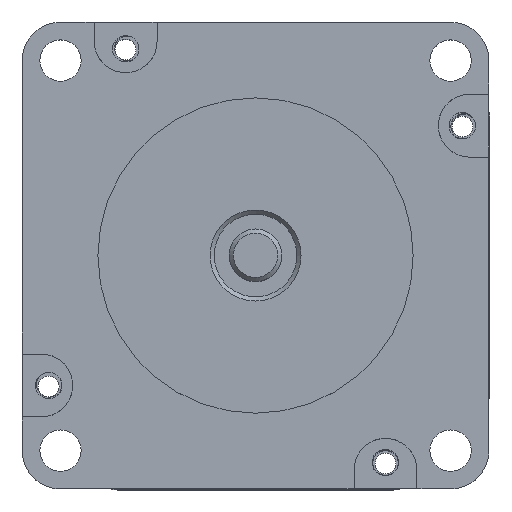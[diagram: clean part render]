
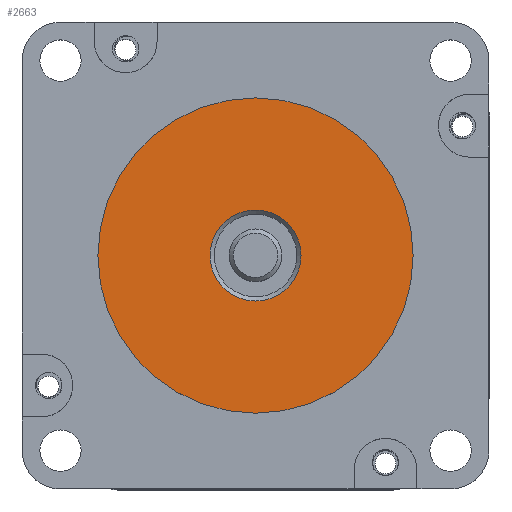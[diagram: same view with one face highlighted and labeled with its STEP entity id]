
A CAD part, top view. The second image highlights one B-rep face of the part: STEP entity #2663.
In plain terms, the highlighted planar face has unit normal (0, 0, 1).
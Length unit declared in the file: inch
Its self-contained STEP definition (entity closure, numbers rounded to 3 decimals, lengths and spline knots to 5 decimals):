
#34=FACE_BOUND('',#467,.T.);
#113=CIRCLE('',#2869,0.21654);
#114=CIRCLE('',#2871,0.75);
#322=FACE_OUTER_BOUND('',#466,.T.);
#466=EDGE_LOOP('',(#1894));
#467=EDGE_LOOP('',(#1895));
#1117=VERTEX_POINT('',#4095);
#1118=VERTEX_POINT('',#4099);
#1419=EDGE_CURVE('',#1117,#1117,#113,.F.);
#1420=EDGE_CURVE('',#1118,#1118,#114,.T.);
#1894=ORIENTED_EDGE('',*,*,#1420,.T.);
#1895=ORIENTED_EDGE('',*,*,#1419,.T.);
#2460=PLANE('',#2870);
#2663=ADVANCED_FACE('',(#322,#34),#2460,.T.);
#2869=AXIS2_PLACEMENT_3D('',#4097,#3296,#3297);
#2870=AXIS2_PLACEMENT_3D('',#4098,#3298,#3299);
#2871=AXIS2_PLACEMENT_3D('',#4100,#3300,#3301);
#3296=DIRECTION('center_axis',(0.,0.,1.));
#3297=DIRECTION('ref_axis',(1.,0.,0.));
#3298=DIRECTION('center_axis',(0.,0.,1.));
#3299=DIRECTION('ref_axis',(1.,0.,0.));
#3300=DIRECTION('center_axis',(0.,0.,1.));
#3301=DIRECTION('ref_axis',(1.,0.,0.));
#4095=CARTESIAN_POINT('',(-2.5578,0.90898,2.54747));
#4097=CARTESIAN_POINT('Origin',(-2.34127,0.90898,2.54747));
#4098=CARTESIAN_POINT('Origin',(-2.34127,0.90898,2.54747));
#4099=CARTESIAN_POINT('',(-3.09127,0.90898,2.54747));
#4100=CARTESIAN_POINT('Origin',(-2.34127,0.90898,2.54747));
